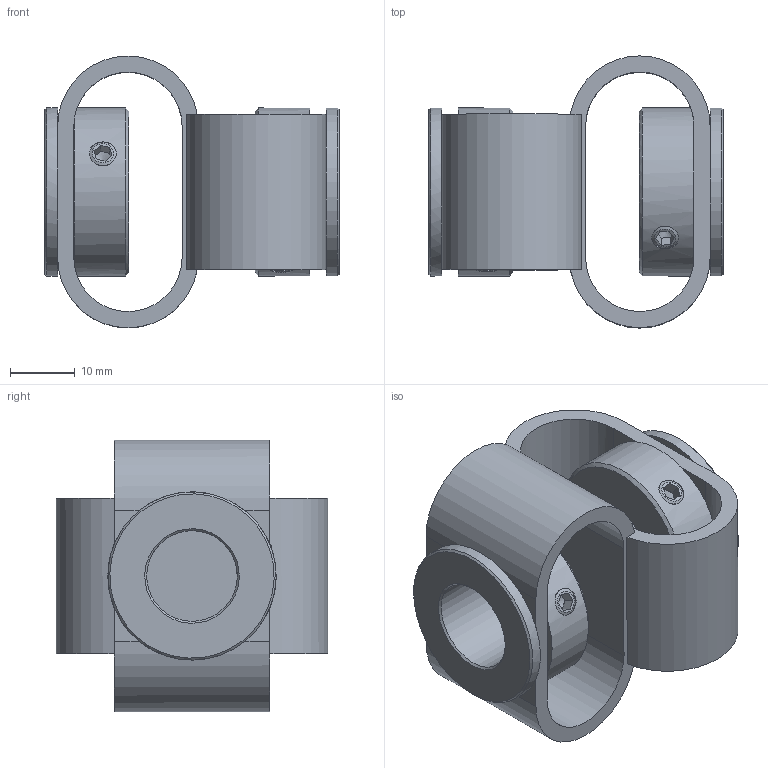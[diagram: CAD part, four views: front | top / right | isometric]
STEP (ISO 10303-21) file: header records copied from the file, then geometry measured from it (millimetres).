
FILE_DESCRIPTION(/* description */ (''),/* implementation_level */ '2;1');
FILE_NAME(/* name */ 'E:\ABP_bauteile\Doppelschlaufenkupplung\DKPS_4848\Doppelschlaufenkupplung_DKPS_4848_10_14.stp',/* time_stamp */ '2015-03-13T14:19:32+01:00',/* author */ ('Rob'),/* organization */ (''),/* preprocessor_version */ 'ST-DEVELOPER v15.6',/* originating_system */ 'Autodesk Inventor 2015',/* authorisation */ '');
FILE_SCHEMA (('CONFIG_CONTROL_DESIGN'));
Length unit declared in the file: millimetre
Products named in the file (1): Bauteil70
Bounding box: 45.55 x 42.03 x 42.03 mm (x, y, z)
Volume: 18752.2 mm3; surface area: 13385.8 mm2
Topology: 1 solids, 2 shells, 134 faces, 311 edges, 188 vertices
Faces by surface type: plane 83, cylinder 27, cone 24
Full cylindrical faces by diameter (mm): 4.134 x8, 10 x1, 14 x1, 16.5 x2, 18 x3, 26 x4
Entity records: 3580 total; most frequent: CARTESIAN_POINT 849, DIRECTION 588, ORIENTED_EDGE 470, EDGE_CURVE 235, AXIS2_PLACEMENT_3D 234, EDGE_LOOP 198, VERTEX_POINT 155, FACE_OUTER_BOUND 134
